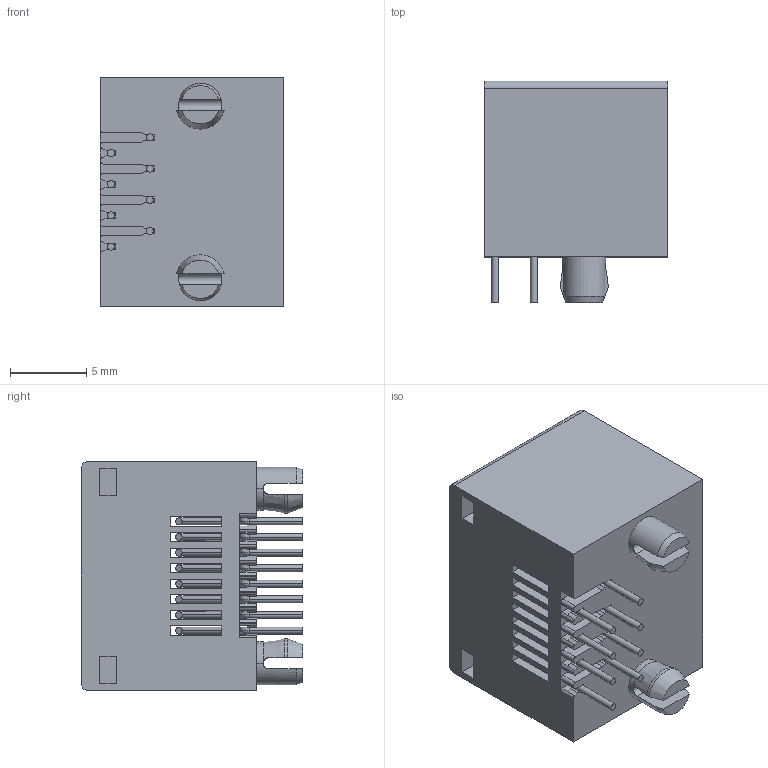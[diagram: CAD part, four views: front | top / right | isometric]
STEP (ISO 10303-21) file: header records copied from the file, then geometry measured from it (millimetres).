
FILE_DESCRIPTION((''),'2;1');
FILE_NAME('5324MINI-1X1-8P8C_ASM','2022-07-13T15:40:07',('HQW'),(''),'CREO PARAMETRIC BY PTC INC, 2021424','CREO PARAMETRIC BY PTC INC, 2021424','');
FILE_SCHEMA(('CONFIG_CONTROL_DESIGN','GEOMETRIC_VALIDATION_PROPERTIES_MIM'));
Length unit declared in the file: millimetre
Products named in the file (3): 5324MINI-1X1-8P-00; 5324MINI-1X1-8P8C-0001; 5324MINI-1X1-8P8C_ASM
Assembly tree (2 placements, depth 2):
  5324MINI-1X1-8P8C_ASM
    5324MINI-1X1-8P-00
    5324MINI-1X1-8P8C-0001
Bounding box: 12 x 14.5 x 15.05 mm (x, y, z)
Volume: 911.2 mm3; surface area: 2014.6 mm2
Topology: 9 solids, 9 shells, 346 faces, 970 edges, 622 vertices
Faces by surface type: plane 199, cylinder 109, torus 32, cone 6
Entity records: 11437 total; most frequent: CARTESIAN_POINT 2190, ORIENTED_EDGE 1940, DIRECTION 1864, EDGE_CURVE 970, VECTOR 690, LINE 690, VERTEX_POINT 622, AXIS2_PLACEMENT_3D 587
